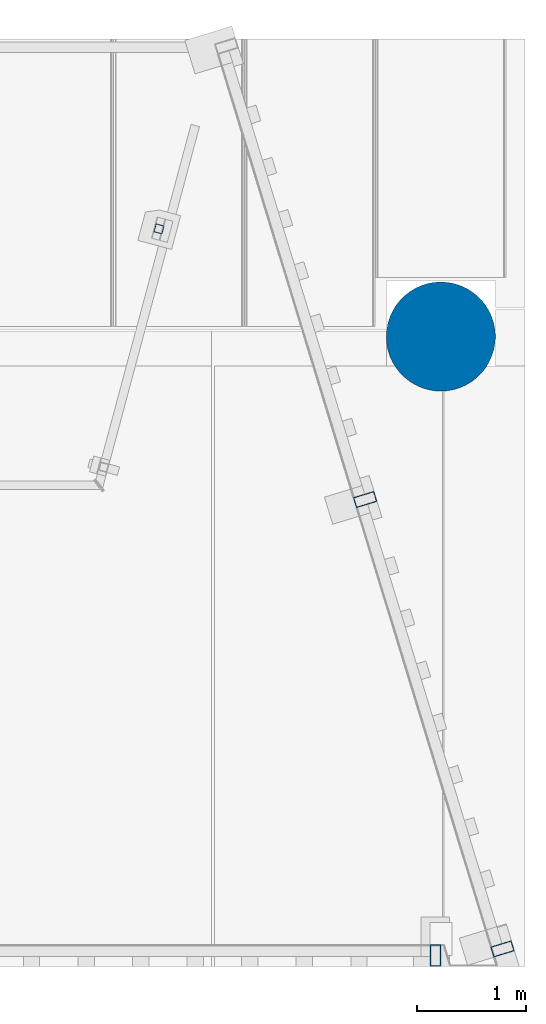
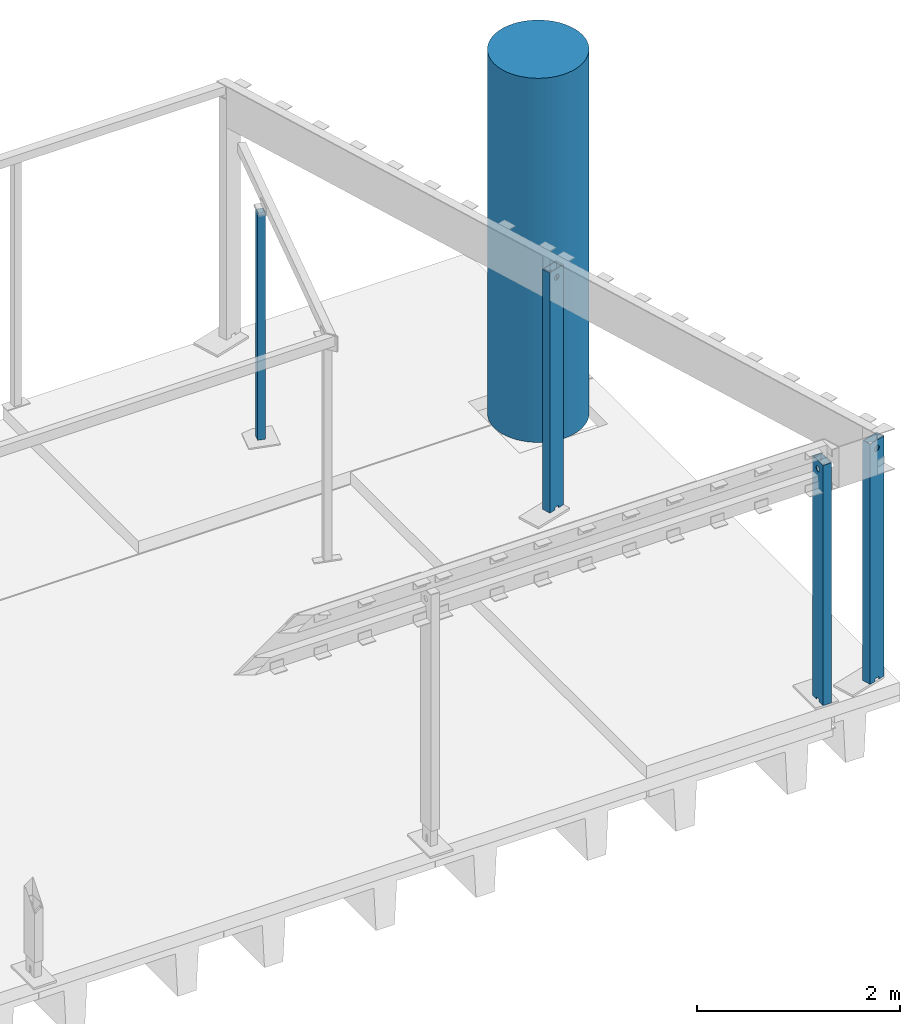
# One storey, part 4 of 19: 5 columns.
"""IFC2X3 building model written with IfcOpenShell, lengths in millimetres."""

from ifc_helpers import new_model, entity, si_unit, converted_unit, derived_unit, direction, frame, origin_with_axes, place, context, subcontext, project, spatial, faceted_brep, material, type_object, element, save


model = new_model("IFC2X3")

# Units and contexts
model_context = context("Model", 3, precision=0.01, world=frame((0.0, 4.29681676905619e-09, 0.0)), true_north=direction((4.01073788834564e-13, 1.0)))
plan_context = context("Plan", 3, precision=0.01, world=frame((0.0, 4.29681676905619e-09, 0.0)), true_north=direction((4.01073788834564e-13, 1.0)))
body_context = subcontext(model_context, "Body", "Model", "MODEL_VIEW")
ifc_project = project(units=[converted_unit("PLANEANGLEUNIT", "DEGREE", entity("IfcPositiveLengthMeasure", 0.0174532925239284), si_unit("PLANEANGLEUNIT", "RADIAN"), dimensions=[0, 0, 0, 0, 0, 0, 0]), si_unit("AREAUNIT", "SQUARE_METRE"), si_unit("LENGTHUNIT", "METRE", prefix="MILLI"), si_unit("MASSUNIT", "GRAM", prefix="KILO"), si_unit("POWERUNIT", "WATT"), si_unit("PRESSUREUNIT", "PASCAL", prefix="KILO"), si_unit("FORCEUNIT", "NEWTON", prefix="KILO"), si_unit("ELECTRICVOLTAGEUNIT", "VOLT"), si_unit("ELECTRICCURRENTUNIT", "AMPERE"), si_unit("THERMODYNAMICTEMPERATUREUNIT", "DEGREE_CELSIUS"), si_unit("TIMEUNIT", "SECOND"), si_unit("VOLUMEUNIT", "CUBIC_METRE"), derived_unit("LINEARVELOCITYUNIT", [(si_unit("LENGTHUNIT", "METRE"), 1), (si_unit("TIMEUNIT", "SECOND"), -1)]), derived_unit("VOLUMETRICFLOWRATEUNIT", [(si_unit("VOLUMEUNIT", "CUBIC_METRE"), 1), (si_unit("TIMEUNIT", "SECOND"), -1)]), derived_unit("THERMALTRANSMITTANCEUNIT", [(si_unit("POWERUNIT", "WATT"), 1), (si_unit("THERMODYNAMICTEMPERATUREUNIT", "KELVIN"), -1), (si_unit("AREAUNIT", "SQUARE_METRE"), -1)]), derived_unit("SOUNDPRESSUREUNIT", [(si_unit("PRESSUREUNIT", "PASCAL"), 1)])], contexts=[model_context, plan_context])

# Site, building, storey
site_placement = place(None, frame((0.0, -4.29681676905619e-09, 0.0), z_axis=(0.0, 0.0, 1.0), x_axis=(1.0, 0.0, 0.0)))
site = spatial("IfcSite", under=ifc_project, at=site_placement, Name="Gardermoen", CompositionType="ELEMENT")
building_placement = place(site_placement, frame((0.0, 4.29681676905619e-09, 0.0), z_axis=(0.0, 0.0, 1.0), x_axis=(1.0, 0.0, 0.0)))
building = spatial("IfcBuilding", under=site, at=building_placement, Name="TI", CompositionType="ELEMENT")
storey_placement = place(building_placement, origin_with_axes())
storey = spatial("IfcBuildingStorey", under=building, at=storey_placement, Name="F", CompositionType="ELEMENT", Elevation=0.0)

# Columns
ifc_material_1 = material(Name="STEEL/S355")
column_type_1 = type_object("IfcColumnType", Name="RHS200*100*8", PredefinedType="NOTDEFINED")
column_1_placement = place(storey_placement, frame((600306.164078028, 574006.690955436, 210855.0), z_axis=(-0.956304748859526, -0.292371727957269, 0.0), x_axis=(0.0, 0.0, 1.0)))
element("IfcColumn", 1, at=column_1_placement, inside=storey, type_object=column_type_1, material=ifc_material_1, Name="STÅLSØYLE", ObjectType="RHS200*100*8", context=body_context, shape_type="Brep", body=[
    faceted_brep([(30.0000000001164, -50.0, -27.5), (30.0000000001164, -42.0, -27.5), (0.0, -42.0, -27.5), (0.0, -50.0, -27.5), (30.0000000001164, -50.0, 27.5), (30.0000000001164, -42.0, 27.5), (0.0, -50.0, 27.5), (0.0, -42.0, 27.5), (30.0000000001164, 42.0, -27.5), (30.0000000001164, 50.0, -27.5), (0.0, 50.0, -27.5), (0.0, 42.0, -27.5), (30.0000000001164, 42.0, 27.5), (30.0000000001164, 50.0, 27.5), (0.0, 42.0, 27.5), (0.0, 50.0, 27.5), (0.0, -50.0, -100.0), (0.0, 50.0, -100.0), (2882.0006866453, 50.0, -100.0), (2882.0006866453, -50.0, -100.0), (-1.39698386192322e-06, 50.0000000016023, 99.999992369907), (-1.39791518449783e-06, -49.9999999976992, 99.999992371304), (2882.0006866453, -50.0, 100.0), (2882.0006866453, 50.0, 100.0), (0.0, 42.0, 92.0), (0.0, -42.0, 92.0), (2882.0006866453, 42.0, 92.0), (2882.0006866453, -42.0, 92.0), (2882.0006866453, 42.0, -92.0), (2882.0006866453, -42.0, -92.0), (0.0, 42.0, -92.0), (0.0, -42.0, -92.0), (2806.74942397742, -41.9999999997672, 24.7487373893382), (2795.39460676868, -42.0, 32.3357836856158), (2782.0006866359, -42.0, 35.0000000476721), (2768.60676650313, -42.0, 32.3357836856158), (2757.25194929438, -41.9999999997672, 24.7487373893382), (2749.66490299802, -41.9999999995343, 13.3939201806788), (2747.0006866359, -41.9999999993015, 4.79631125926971e-08), (2749.66490299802, -41.9999999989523, -13.3939200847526), (2757.25194929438, -41.9999999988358, -24.7487372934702), (2768.60676650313, -41.9999999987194, -32.3357835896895), (2782.0006866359, -41.999999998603, -34.9999999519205), (2795.39460676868, -41.9999999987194, -32.3357835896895), (2806.74942397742, -41.9999999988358, -24.7487372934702), (2814.33647027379, -41.9999999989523, -13.3939200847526), (2817.0006866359, -41.9999999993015, 4.79631125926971e-08), (2814.33647027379, -41.9999999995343, 13.3939201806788), (2814.33647027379, -49.9999999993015, 13.3939201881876), (2817.0006866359, -49.9999999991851, 5.5413693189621e-08), (2806.74942397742, -49.9999999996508, 24.7487373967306), (2795.39460676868, -49.9999999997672, 32.3357836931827), (2782.0006866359, -49.9999999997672, 35.0000000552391), (2768.60676650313, -49.9999999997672, 32.3357836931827), (2757.25194929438, -49.9999999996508, 24.7487373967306), (2749.66490299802, -49.9999999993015, 13.3939201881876), (2747.0006866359, -49.9999999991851, 5.5413693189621e-08), (2749.66490299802, -49.9999999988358, -13.3939200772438), (2757.25194929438, -49.999999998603, -24.7487372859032), (2768.60676650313, -49.9999999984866, -32.3357835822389), (2782.0006866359, -49.9999999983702, -34.9999999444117), (2795.39460676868, -49.9999999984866, -32.3357835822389), (2806.74942397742, -49.999999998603, -24.7487372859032), (2814.33647027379, -49.9999999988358, -13.3939200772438), (2806.74942397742, 49.999999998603, 24.748737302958), (2795.39460676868, 49.9999999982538, 32.3357835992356), (2782.0006866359, 49.9999999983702, 34.9999999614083), (2768.60676650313, 49.9999999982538, 32.3357835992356), (2757.25194929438, 49.999999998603, 24.748737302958), (2749.66490299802, 49.9999999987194, 13.3939200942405), (2747.0006866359, 49.9999999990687, -3.84170562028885e-08), (2749.66490299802, 49.9999999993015, -13.393920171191), (2757.25194929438, 49.9999999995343, -24.7487373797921), (2768.60676650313, 49.9999999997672, -32.3357836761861), (2782.0006866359, 49.9999999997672, -35.0000000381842), (2795.39460676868, 49.9999999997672, -32.3357836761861), (2806.74942397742, 49.9999999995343, -24.7487373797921), (2814.33647027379, 49.9999999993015, -13.393920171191), (2817.0006866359, 49.9999999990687, -3.84170562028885e-08), (2814.33647027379, 49.9999999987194, 13.3939200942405), (2814.33647027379, 41.9999999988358, 13.3939201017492), (2817.0006866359, 41.9999999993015, -3.09664756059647e-08), (2806.74942397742, 41.999999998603, 24.7487373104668), (2795.39460676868, 41.999999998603, 32.3357836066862), (2782.0006866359, 41.9999999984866, 34.9999999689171), (2768.60676650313, 41.999999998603, 32.3357836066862), (2757.25194929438, 41.999999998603, 24.7487373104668), (2749.66490299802, 41.9999999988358, 13.3939201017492), (2747.0006866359, 41.9999999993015, -3.09664756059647e-08), (2749.66490299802, 41.9999999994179, -13.393920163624), (2757.25194929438, 41.9999999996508, -24.7487373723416), (2768.60676650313, 41.9999999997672, -32.3357836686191), (2782.0006866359, 41.9999999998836, -35.0000000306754), (2795.39460676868, 41.9999999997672, -32.3357836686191), (2806.74942397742, 41.9999999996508, -24.7487373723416), (2814.33647027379, 41.9999999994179, -13.393920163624)], [[[0, 1, 2, 3]], [[4, 5, 1, 0]], [[6, 7, 5, 4]], [[8, 9, 10, 11]], [[12, 13, 9, 8]], [[14, 15, 13, 12]], [[16, 17, 18, 19]], [[20, 21, 22, 23]], [[21, 20, 15, 14, 24, 25, 7, 6]], [[25, 24, 26, 27]], [[22, 19, 18, 23], [27, 26, 28, 29]], [[30, 31, 29, 28]], [[25, 27, 29, 31, 2, 1, 5, 7], [32, 33, 34, 35, 36, 37, 38, 39, 40, 41, 42, 43, 44, 45, 46, 47]], [[48, 47, 46, 49]], [[50, 32, 47, 48]], [[51, 33, 32, 50]], [[52, 34, 33, 51]], [[53, 35, 34, 52]], [[54, 36, 35, 53]], [[55, 37, 36, 54]], [[56, 38, 37, 55]], [[57, 39, 38, 56]], [[58, 40, 39, 57]], [[59, 41, 40, 58]], [[60, 42, 41, 59]], [[61, 43, 42, 60]], [[62, 44, 43, 61]], [[63, 45, 44, 62]], [[49, 46, 45, 63]], [[3, 16, 19, 22, 21, 6, 4, 0], [62, 61, 60, 59, 58, 57, 56, 55, 54, 53, 52, 51, 50, 48, 49, 63]], [[31, 30, 11, 10, 17, 16, 3, 2]], [[20, 23, 18, 17, 10, 9, 13, 15], [64, 65, 66, 67, 68, 69, 70, 71, 72, 73, 74, 75, 76, 77, 78, 79]], [[80, 79, 78, 81]], [[82, 64, 79, 80]], [[83, 65, 64, 82]], [[84, 66, 65, 83]], [[85, 67, 66, 84]], [[86, 68, 67, 85]], [[87, 69, 68, 86]], [[88, 70, 69, 87]], [[89, 71, 70, 88]], [[90, 72, 71, 89]], [[91, 73, 72, 90]], [[92, 74, 73, 91]], [[93, 75, 74, 92]], [[94, 76, 75, 93]], [[95, 77, 76, 94]], [[81, 78, 77, 95]], [[11, 30, 28, 26, 24, 14, 12, 8], [94, 93, 92, 91, 90, 89, 88, 87, 86, 85, 84, 83, 82, 80, 81, 95]]]),
])
column_2_placement = place(storey_placement, frame((601564.824267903, 569889.798981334, 210855.0), z_axis=(-0.956304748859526, -0.292371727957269, 0.0), x_axis=(0.0, 0.0, 1.0)))
element("IfcColumn", 2, at=column_2_placement, inside=storey, type_object=column_type_1, material=ifc_material_1, Name="STÅLSØYLE", ObjectType="RHS200*100*8", context=body_context, shape_type="Brep", body=[
    faceted_brep([(30.0000000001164, -50.0, -27.5), (30.0000000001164, -42.0, -27.5), (0.0, -42.0, -27.5), (0.0, -50.0, -27.5), (30.0000000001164, -50.0, 27.5), (30.0000000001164, -42.0, 27.5), (0.0, -50.0, 27.5), (0.0, -42.0, 27.5), (30.0000000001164, 42.0, -27.5), (30.0000000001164, 50.0, -27.5), (0.0, 50.0, -27.5), (0.0, 42.0, -27.5), (30.0000000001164, 42.0, 27.5), (30.0000000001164, 50.0, 27.5), (0.0, 42.0, 27.5), (0.0, 50.0, 27.5), (0.0, -50.0, -100.0), (0.0, 50.0, -100.0), (2882.0006866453, 50.0, -100.0), (2882.0006866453, -50.0, -100.0), (-1.39698386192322e-06, 50.0000000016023, 99.999992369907), (-1.39791518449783e-06, -49.9999999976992, 99.999992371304), (2882.0006866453, -50.0, 100.0), (2882.0006866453, 50.0, 100.0), (0.0, 42.0, 92.0), (0.0, -42.0, 92.0), (2882.0006866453, 42.0, 92.0), (2882.0006866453, -42.0, 92.0), (2882.0006866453, 42.0, -92.0), (2882.0006866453, -42.0, -92.0), (0.0, 42.0, -92.0), (0.0, -42.0, -92.0), (2806.74942397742, -41.9999999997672, 24.7487373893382), (2795.39460676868, -42.0, 32.3357836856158), (2782.0006866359, -42.0, 35.0000000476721), (2768.60676650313, -42.0, 32.3357836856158), (2757.25194929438, -41.9999999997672, 24.7487373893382), (2749.66490299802, -41.9999999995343, 13.3939201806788), (2747.0006866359, -41.9999999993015, 4.79631125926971e-08), (2749.66490299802, -41.9999999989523, -13.3939200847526), (2757.25194929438, -41.9999999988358, -24.7487372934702), (2768.60676650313, -41.9999999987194, -32.3357835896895), (2782.0006866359, -41.999999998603, -34.9999999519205), (2795.39460676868, -41.9999999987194, -32.3357835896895), (2806.74942397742, -41.9999999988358, -24.7487372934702), (2814.33647027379, -41.9999999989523, -13.3939200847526), (2817.0006866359, -41.9999999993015, 4.79631125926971e-08), (2814.33647027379, -41.9999999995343, 13.3939201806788), (2814.33647027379, -49.9999999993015, 13.3939201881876), (2817.0006866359, -49.9999999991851, 5.5413693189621e-08), (2806.74942397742, -49.9999999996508, 24.7487373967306), (2795.39460676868, -49.9999999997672, 32.3357836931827), (2782.0006866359, -49.9999999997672, 35.0000000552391), (2768.60676650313, -49.9999999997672, 32.3357836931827), (2757.25194929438, -49.9999999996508, 24.7487373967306), (2749.66490299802, -49.9999999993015, 13.3939201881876), (2747.0006866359, -49.9999999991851, 5.5413693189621e-08), (2749.66490299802, -49.9999999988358, -13.3939200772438), (2757.25194929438, -49.999999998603, -24.7487372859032), (2768.60676650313, -49.9999999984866, -32.3357835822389), (2782.0006866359, -49.9999999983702, -34.9999999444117), (2795.39460676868, -49.9999999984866, -32.3357835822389), (2806.74942397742, -49.999999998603, -24.7487372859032), (2814.33647027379, -49.9999999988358, -13.3939200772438), (2806.74942397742, 49.999999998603, 24.748737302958), (2795.39460676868, 49.9999999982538, 32.3357835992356), (2782.0006866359, 49.9999999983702, 34.9999999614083), (2768.60676650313, 49.9999999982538, 32.3357835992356), (2757.25194929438, 49.999999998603, 24.748737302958), (2749.66490299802, 49.9999999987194, 13.3939200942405), (2747.0006866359, 49.9999999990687, -3.84170562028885e-08), (2749.66490299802, 49.9999999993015, -13.393920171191), (2757.25194929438, 49.9999999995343, -24.7487373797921), (2768.60676650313, 49.9999999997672, -32.3357836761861), (2782.0006866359, 49.9999999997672, -35.0000000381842), (2795.39460676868, 49.9999999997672, -32.3357836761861), (2806.74942397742, 49.9999999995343, -24.7487373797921), (2814.33647027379, 49.9999999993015, -13.393920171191), (2817.0006866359, 49.9999999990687, -3.84170562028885e-08), (2814.33647027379, 49.9999999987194, 13.3939200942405), (2814.33647027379, 41.9999999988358, 13.3939201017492), (2817.0006866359, 41.9999999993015, -3.09664756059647e-08), (2806.74942397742, 41.999999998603, 24.7487373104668), (2795.39460676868, 41.999999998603, 32.3357836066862), (2782.0006866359, 41.9999999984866, 34.9999999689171), (2768.60676650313, 41.999999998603, 32.3357836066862), (2757.25194929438, 41.999999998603, 24.7487373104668), (2749.66490299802, 41.9999999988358, 13.3939201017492), (2747.0006866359, 41.9999999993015, -3.09664756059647e-08), (2749.66490299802, 41.9999999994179, -13.393920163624), (2757.25194929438, 41.9999999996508, -24.7487373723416), (2768.60676650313, 41.9999999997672, -32.3357836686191), (2782.0006866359, 41.9999999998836, -35.0000000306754), (2795.39460676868, 41.9999999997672, -32.3357836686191), (2806.74942397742, 41.9999999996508, -24.7487373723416), (2814.33647027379, 41.9999999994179, -13.393920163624)], [[[0, 1, 2, 3]], [[4, 5, 1, 0]], [[6, 7, 5, 4]], [[8, 9, 10, 11]], [[12, 13, 9, 8]], [[14, 15, 13, 12]], [[16, 17, 18, 19]], [[20, 21, 22, 23]], [[21, 20, 15, 14, 24, 25, 7, 6]], [[25, 24, 26, 27]], [[22, 19, 18, 23], [27, 26, 28, 29]], [[30, 31, 29, 28]], [[25, 27, 29, 31, 2, 1, 5, 7], [32, 33, 34, 35, 36, 37, 38, 39, 40, 41, 42, 43, 44, 45, 46, 47]], [[48, 47, 46, 49]], [[50, 32, 47, 48]], [[51, 33, 32, 50]], [[52, 34, 33, 51]], [[53, 35, 34, 52]], [[54, 36, 35, 53]], [[55, 37, 36, 54]], [[56, 38, 37, 55]], [[57, 39, 38, 56]], [[58, 40, 39, 57]], [[59, 41, 40, 58]], [[60, 42, 41, 59]], [[61, 43, 42, 60]], [[62, 44, 43, 61]], [[63, 45, 44, 62]], [[49, 46, 45, 63]], [[3, 16, 19, 22, 21, 6, 4, 0], [62, 61, 60, 59, 58, 57, 56, 55, 54, 53, 52, 51, 50, 48, 49, 63]], [[31, 30, 11, 10, 17, 16, 3, 2]], [[20, 23, 18, 17, 10, 9, 13, 15], [64, 65, 66, 67, 68, 69, 70, 71, 72, 73, 74, 75, 76, 77, 78, 79]], [[80, 79, 78, 81]], [[82, 64, 79, 80]], [[83, 65, 64, 82]], [[84, 66, 65, 83]], [[85, 67, 66, 84]], [[86, 68, 67, 85]], [[87, 69, 68, 86]], [[88, 70, 69, 87]], [[89, 71, 70, 88]], [[90, 72, 71, 89]], [[91, 73, 72, 90]], [[92, 74, 73, 91]], [[93, 75, 74, 92]], [[94, 76, 75, 93]], [[95, 77, 76, 94]], [[81, 78, 77, 95]], [[11, 30, 28, 26, 24, 14, 12, 8], [94, 93, 92, 91, 90, 89, 88, 87, 86, 85, 84, 83, 82, 80, 81, 95]]]),
])
column_3_placement = place(storey_placement, frame((600950.0, 569830.0, 210855.0), z_axis=(0.0, 1.0, 0.0), x_axis=(0.0, 0.0, 1.0)))
element("IfcColumn", 3, at=column_3_placement, inside=storey, type_object=column_type_1, material=ifc_material_1, Name="STÅLSØYLE", ObjectType="RHS200*100*8", context=body_context, shape_type="Brep", body=[
    faceted_brep([(30.0000000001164, -50.0, -27.5), (30.0000000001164, -42.0, -27.5), (0.0, -42.0, -27.5), (0.0, -50.0, -27.5), (30.0000000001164, -50.0, 27.5), (30.0000000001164, -42.0, 27.5), (0.0, -50.0, 27.5), (0.0, -42.0, 27.5), (30.0000000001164, 42.0, -27.5), (30.0000000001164, 50.0, -27.5), (0.0, 50.0, -27.5), (0.0, 42.0, -27.5), (30.0000000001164, 42.0, 27.5), (30.0000000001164, 50.0, 27.5), (0.0, 42.0, 27.5), (0.0, 50.0, 27.5), (0.0, -50.0, -100.0), (0.0, 50.0, -100.0), (2882.0006866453, 50.0, -100.0), (2882.0006866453, -50.0, -100.0), (-1.39698386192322e-06, 50.0000000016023, 99.999992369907), (-1.39791518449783e-06, -49.9999999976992, 99.999992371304), (2882.0006866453, -50.0, 100.0), (2882.0006866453, 50.0, 100.0), (0.0, 42.0, 92.0), (0.0, -42.0, 92.0), (2882.0006866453, 42.0, 92.0), (2882.0006866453, -42.0, 92.0), (2882.0006866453, 42.0, -92.0), (2882.0006866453, -42.0, -92.0), (0.0, 42.0, -92.0), (0.0, -42.0, -92.0), (2806.74942397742, -41.9999999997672, 24.7487373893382), (2795.39460676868, -42.0, 32.3357836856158), (2782.0006866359, -42.0, 35.0000000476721), (2768.60676650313, -42.0, 32.3357836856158), (2757.25194929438, -41.9999999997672, 24.7487373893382), (2749.66490299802, -41.9999999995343, 13.3939201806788), (2747.0006866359, -41.9999999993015, 4.79631125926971e-08), (2749.66490299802, -41.9999999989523, -13.3939200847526), (2757.25194929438, -41.9999999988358, -24.7487372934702), (2768.60676650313, -41.9999999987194, -32.3357835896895), (2782.0006866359, -41.999999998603, -34.9999999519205), (2795.39460676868, -41.9999999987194, -32.3357835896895), (2806.74942397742, -41.9999999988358, -24.7487372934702), (2814.33647027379, -41.9999999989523, -13.3939200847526), (2817.0006866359, -41.9999999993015, 4.79631125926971e-08), (2814.33647027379, -41.9999999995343, 13.3939201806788), (2814.33647027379, -49.9999999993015, 13.3939201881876), (2817.0006866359, -49.9999999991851, 5.5413693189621e-08), (2806.74942397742, -49.9999999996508, 24.7487373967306), (2795.39460676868, -49.9999999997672, 32.3357836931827), (2782.0006866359, -49.9999999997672, 35.0000000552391), (2768.60676650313, -49.9999999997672, 32.3357836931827), (2757.25194929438, -49.9999999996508, 24.7487373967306), (2749.66490299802, -49.9999999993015, 13.3939201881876), (2747.0006866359, -49.9999999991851, 5.5413693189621e-08), (2749.66490299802, -49.9999999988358, -13.3939200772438), (2757.25194929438, -49.999999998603, -24.7487372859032), (2768.60676650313, -49.9999999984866, -32.3357835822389), (2782.0006866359, -49.9999999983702, -34.9999999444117), (2795.39460676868, -49.9999999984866, -32.3357835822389), (2806.74942397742, -49.999999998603, -24.7487372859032), (2814.33647027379, -49.9999999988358, -13.3939200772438), (2806.74942397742, 49.999999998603, 24.748737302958), (2795.39460676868, 49.9999999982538, 32.3357835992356), (2782.0006866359, 49.9999999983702, 34.9999999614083), (2768.60676650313, 49.9999999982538, 32.3357835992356), (2757.25194929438, 49.999999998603, 24.748737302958), (2749.66490299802, 49.9999999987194, 13.3939200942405), (2747.0006866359, 49.9999999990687, -3.84170562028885e-08), (2749.66490299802, 49.9999999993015, -13.393920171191), (2757.25194929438, 49.9999999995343, -24.7487373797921), (2768.60676650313, 49.9999999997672, -32.3357836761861), (2782.0006866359, 49.9999999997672, -35.0000000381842), (2795.39460676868, 49.9999999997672, -32.3357836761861), (2806.74942397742, 49.9999999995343, -24.7487373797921), (2814.33647027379, 49.9999999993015, -13.393920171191), (2817.0006866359, 49.9999999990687, -3.84170562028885e-08), (2814.33647027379, 49.9999999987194, 13.3939200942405), (2814.33647027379, 41.9999999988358, 13.3939201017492), (2817.0006866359, 41.9999999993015, -3.09664756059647e-08), (2806.74942397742, 41.999999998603, 24.7487373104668), (2795.39460676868, 41.999999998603, 32.3357836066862), (2782.0006866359, 41.9999999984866, 34.9999999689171), (2768.60676650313, 41.999999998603, 32.3357836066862), (2757.25194929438, 41.999999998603, 24.7487373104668), (2749.66490299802, 41.9999999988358, 13.3939201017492), (2747.0006866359, 41.9999999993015, -3.09664756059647e-08), (2749.66490299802, 41.9999999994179, -13.393920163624), (2757.25194929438, 41.9999999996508, -24.7487373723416), (2768.60676650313, 41.9999999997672, -32.3357836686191), (2782.0006866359, 41.9999999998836, -35.0000000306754), (2795.39460676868, 41.9999999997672, -32.3357836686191), (2806.74942397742, 41.9999999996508, -24.7487373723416), (2814.33647027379, 41.9999999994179, -13.393920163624)], [[[0, 1, 2, 3]], [[4, 5, 1, 0]], [[6, 7, 5, 4]], [[8, 9, 10, 11]], [[12, 13, 9, 8]], [[14, 15, 13, 12]], [[16, 17, 18, 19]], [[20, 21, 22, 23]], [[21, 20, 15, 14, 24, 25, 7, 6]], [[25, 24, 26, 27]], [[22, 19, 18, 23], [27, 26, 28, 29]], [[30, 31, 29, 28]], [[25, 27, 29, 31, 2, 1, 5, 7], [32, 33, 34, 35, 36, 37, 38, 39, 40, 41, 42, 43, 44, 45, 46, 47]], [[48, 47, 46, 49]], [[50, 32, 47, 48]], [[51, 33, 32, 50]], [[52, 34, 33, 51]], [[53, 35, 34, 52]], [[54, 36, 35, 53]], [[55, 37, 36, 54]], [[56, 38, 37, 55]], [[57, 39, 38, 56]], [[58, 40, 39, 57]], [[59, 41, 40, 58]], [[60, 42, 41, 59]], [[61, 43, 42, 60]], [[62, 44, 43, 61]], [[63, 45, 44, 62]], [[49, 46, 45, 63]], [[3, 16, 19, 22, 21, 6, 4, 0], [62, 61, 60, 59, 58, 57, 56, 55, 54, 53, 52, 51, 50, 48, 49, 63]], [[31, 30, 11, 10, 17, 16, 3, 2]], [[20, 23, 18, 17, 10, 9, 13, 15], [64, 65, 66, 67, 68, 69, 70, 71, 72, 73, 74, 75, 76, 77, 78, 79]], [[80, 79, 78, 81]], [[82, 64, 79, 80]], [[83, 65, 64, 82]], [[84, 66, 65, 83]], [[85, 67, 66, 84]], [[86, 68, 67, 85]], [[87, 69, 68, 86]], [[88, 70, 69, 87]], [[89, 71, 70, 88]], [[90, 72, 71, 89]], [[91, 73, 72, 90]], [[92, 74, 73, 91]], [[93, 75, 74, 92]], [[94, 76, 75, 93]], [[95, 77, 76, 94]], [[81, 78, 77, 95]], [[11, 30, 28, 26, 24, 14, 12, 8], [94, 93, 92, 91, 90, 89, 88, 87, 86, 85, 84, 83, 82, 80, 81, 95]]]),
])
column_type_2 = type_object("IfcColumnType", Name="RHS80*6.3", PredefinedType="NOTDEFINED")
column_4_placement = place(storey_placement, frame((598417.936831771, 576486.395133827, 210845.0), z_axis=(0.258819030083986, 0.965925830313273, 0.0), x_axis=(0.0, 0.0, 1.0)))
element("IfcColumn", 4, at=column_4_placement, inside=storey, type_object=column_type_2, material=ifc_material_1, Name="STÅLSØYLE", ObjectType="RHS80*6.3", context=body_context, shape_type="Brep", body=[
    faceted_brep([(0.0, 33.6999998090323, -33.6999998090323), (0.0, -33.6999998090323, -33.6999998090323), (2723.0, -33.6999998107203, -33.6999998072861), (2723.0, 33.6999998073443, -33.6999998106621), (0.0, -33.6999998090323, 33.6999998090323), (2723.0, -33.6999998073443, 33.6999998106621), (0.0, 33.6999998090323, 33.6999998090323), (2723.0, 33.6999998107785, 33.6999998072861), (0.0, 40.0, -40.0), (0.0, 40.0, 40.0), (2723.0, 40.0000000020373, 39.9999999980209), (2723.0, 39.9999999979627, -40.0000000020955), (0.0, -40.0, 40.0), (2723.0, -39.9999999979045, 40.0000000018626), (0.0, -40.0, -40.0), (2723.0, -40.0000000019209, -39.9999999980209)], [[[0, 1, 2, 3]], [[1, 4, 5, 2]], [[4, 6, 7, 5]], [[6, 0, 3, 7]], [[8, 9, 10, 11]], [[9, 12, 13, 10]], [[12, 14, 15, 13]], [[14, 8, 11, 15]], [[13, 15, 11, 10], [5, 7, 3, 2]], [[14, 12, 9, 8], [6, 4, 1, 0]]]),
])
ifc_material_2 = material(Name="CONCRETE/C55/67")
column_type_3 = type_object("IfcColumnType", Name="D1000", PredefinedType="NOTDEFINED")
column_5_placement = place(storey_placement, frame((601000.0, 575500.0, 210830.0), z_axis=(0.0, 1.0, 0.0), x_axis=(0.0, 0.0, 1.0)))
element("IfcColumn", 5, at=column_5_placement, inside=storey, type_object=column_type_3, material=ifc_material_2, Name="PLASSTØPTSØYLE", ObjectType="D1000", context=body_context, shape_type="Brep", body=[
    faceted_brep([(0.0, -500.0, 0.0), (0.0, -496.354437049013, -60.268340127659), (4370.0, -496.354437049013, -60.268340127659), (4370.0, -500.0, 0.0), (0.0, -485.470908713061, -119.657832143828), (4370.0, -485.470908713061, -119.657832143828), (0.0, -467.508121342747, -177.302443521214), (4370.0, -467.508121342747, -177.302443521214), (0.0, -442.728012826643, -232.361586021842), (4370.0, -442.728012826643, -232.361586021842), (0.0, -411.491932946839, -284.032373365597), (4370.0, -411.491932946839, -284.032373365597), (0.0, -374.255374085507, -331.561329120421), (4370.0, -374.255374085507, -331.561329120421), (0.0, -331.561329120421, -374.255374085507), (4370.0, -331.561329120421, -374.255374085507), (0.0, -284.032373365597, -411.491932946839), (4370.0, -284.032373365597, -411.491932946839), (0.0, -232.361586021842, -442.728012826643), (4370.0, -232.361586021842, -442.728012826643), (0.0, -177.302443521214, -467.508121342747), (4370.0, -177.302443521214, -467.508121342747), (0.0, -119.657832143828, -485.470908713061), (4370.0, -119.657832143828, -485.470908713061), (0.0, -60.268340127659, -496.354437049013), (4370.0, -60.268340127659, -496.354437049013), (0.0, 0.0, -500.0), (4370.0, 0.0, -500.0), (0.0, 60.268340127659, -496.354437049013), (4370.0, 60.268340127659, -496.354437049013), (0.0, 119.657832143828, -485.470908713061), (4370.0, 119.657832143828, -485.470908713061), (0.0, 177.302443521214, -467.508121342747), (4370.0, 177.302443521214, -467.508121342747), (0.0, 232.361586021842, -442.728012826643), (4370.0, 232.361586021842, -442.728012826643), (0.0, 284.032373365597, -411.491932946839), (4370.0, 284.032373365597, -411.491932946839), (0.0, 331.561329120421, -374.255374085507), (4370.0, 331.561329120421, -374.255374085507), (0.0, 374.255374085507, -331.561329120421), (4370.0, 374.255374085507, -331.561329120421), (0.0, 411.491932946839, -284.032373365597), (4370.0, 411.491932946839, -284.032373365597), (0.0, 442.728012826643, -232.361586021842), (4370.0, 442.728012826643, -232.361586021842), (0.0, 467.508121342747, -177.302443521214), (4370.0, 467.508121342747, -177.302443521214), (0.0, 485.470908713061, -119.657832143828), (4370.0, 485.470908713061, -119.657832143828), (0.0, 496.354437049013, -60.268340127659), (4370.0, 496.354437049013, -60.268340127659), (0.0, 500.0, 0.0), (4370.0, 500.0, 0.0), (0.0, 496.354437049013, 60.268340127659), (4370.0, 496.354437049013, 60.268340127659), (0.0, 485.470908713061, 119.657832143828), (4370.0, 485.470908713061, 119.657832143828), (0.0, 467.508121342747, 177.302443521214), (4370.0, 467.508121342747, 177.302443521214), (0.0, 442.728012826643, 232.361586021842), (4370.0, 442.728012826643, 232.361586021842), (0.0, 411.491932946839, 284.032373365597), (4370.0, 411.491932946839, 284.032373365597), (0.0, 374.255374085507, 331.561329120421), (4370.0, 374.255374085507, 331.561329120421), (0.0, 331.561329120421, 374.255374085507), (4370.0, 331.561329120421, 374.255374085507), (0.0, 284.032373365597, 411.491932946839), (4370.0, 284.032373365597, 411.491932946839), (0.0, 232.361586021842, 442.728012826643), (4370.0, 232.361586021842, 442.728012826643), (0.0, 177.302443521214, 467.508121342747), (4370.0, 177.302443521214, 467.508121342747), (0.0, 119.657832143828, 485.470908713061), (4370.0, 119.657832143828, 485.470908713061), (0.0, 60.268340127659, 496.354437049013), (4370.0, 60.268340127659, 496.354437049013), (0.0, 0.0, 500.0), (4370.0, 0.0, 500.0), (0.0, -60.268340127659, 496.354437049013), (4370.0, -60.268340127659, 496.354437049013), (0.0, -119.657832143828, 485.470908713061), (4370.0, -119.657832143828, 485.470908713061), (0.0, -177.302443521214, 467.508121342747), (4370.0, -177.302443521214, 467.508121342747), (0.0, -232.361586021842, 442.728012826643), (4370.0, -232.361586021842, 442.728012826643), (0.0, -284.032373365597, 411.491932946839), (4370.0, -284.032373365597, 411.491932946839), (0.0, -331.561329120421, 374.255374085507), (4370.0, -331.561329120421, 374.255374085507), (0.0, -374.255374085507, 331.561329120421), (4370.0, -374.255374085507, 331.561329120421), (0.0, -411.491932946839, 284.032373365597), (4370.0, -411.491932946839, 284.032373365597), (0.0, -442.728012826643, 232.361586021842), (4370.0, -442.728012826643, 232.361586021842), (0.0, -467.508121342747, 177.302443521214), (4370.0, -467.508121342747, 177.302443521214), (0.0, -485.470908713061, 119.657832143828), (4370.0, -485.470908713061, 119.657832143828), (0.0, -496.354437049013, 60.268340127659), (4370.0, -496.354437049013, 60.268340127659)], [[[0, 1, 2, 3]], [[1, 4, 5, 2]], [[4, 6, 7, 5]], [[6, 8, 9, 7]], [[8, 10, 11, 9]], [[10, 12, 13, 11]], [[12, 14, 15, 13]], [[14, 16, 17, 15]], [[16, 18, 19, 17]], [[18, 20, 21, 19]], [[20, 22, 23, 21]], [[22, 24, 25, 23]], [[24, 26, 27, 25]], [[26, 28, 29, 27]], [[28, 30, 31, 29]], [[30, 32, 33, 31]], [[32, 34, 35, 33]], [[34, 36, 37, 35]], [[36, 38, 39, 37]], [[38, 40, 41, 39]], [[40, 42, 43, 41]], [[42, 44, 45, 43]], [[44, 46, 47, 45]], [[46, 48, 49, 47]], [[48, 50, 51, 49]], [[50, 52, 53, 51]], [[52, 54, 55, 53]], [[54, 56, 57, 55]], [[56, 58, 59, 57]], [[58, 60, 61, 59]], [[60, 62, 63, 61]], [[62, 64, 65, 63]], [[64, 66, 67, 65]], [[66, 68, 69, 67]], [[68, 70, 71, 69]], [[70, 72, 73, 71]], [[72, 74, 75, 73]], [[74, 76, 77, 75]], [[76, 78, 79, 77]], [[78, 80, 81, 79]], [[80, 82, 83, 81]], [[82, 84, 85, 83]], [[84, 86, 87, 85]], [[86, 88, 89, 87]], [[88, 90, 91, 89]], [[90, 92, 93, 91]], [[92, 94, 95, 93]], [[94, 96, 97, 95]], [[96, 98, 99, 97]], [[98, 100, 101, 99]], [[100, 102, 103, 101]], [[102, 0, 3, 103]], [[5, 7, 9, 11, 13, 15, 17, 19, 21, 23, 25, 27, 29, 31, 33, 35, 37, 39, 41, 43, 45, 47, 49, 51, 53, 55, 57, 59, 61, 63, 65, 67, 69, 71, 73, 75, 77, 79, 81, 83, 85, 87, 89, 91, 93, 95, 97, 99, 101, 103, 3, 2]], [[102, 100, 98, 96, 94, 92, 90, 88, 86, 84, 82, 80, 78, 76, 74, 72, 70, 68, 66, 64, 62, 60, 58, 56, 54, 52, 50, 48, 46, 44, 42, 40, 38, 36, 34, 32, 30, 28, 26, 24, 22, 20, 18, 16, 14, 12, 10, 8, 6, 4, 1, 0]]]),
])

save(model, "model.ifc")
